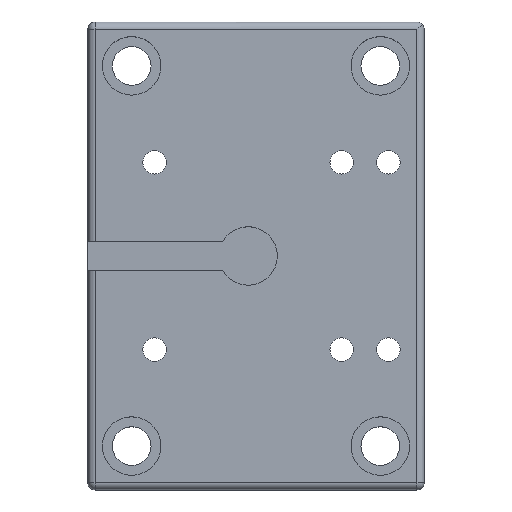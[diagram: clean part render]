
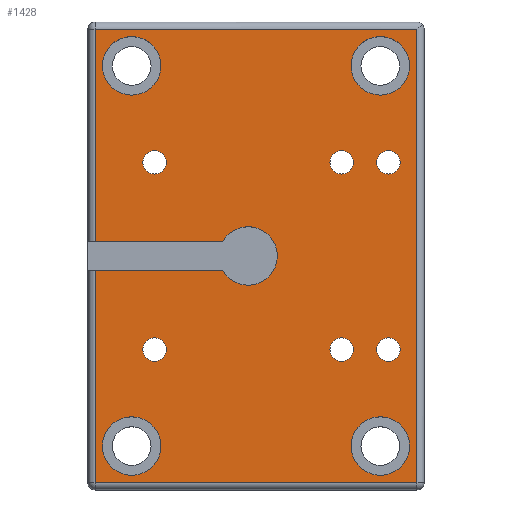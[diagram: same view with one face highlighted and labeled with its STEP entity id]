
A CAD part, top view. The second image highlights one B-rep face of the part: STEP entity #1428.
In plain terms, the highlighted planar face has unit normal (0, 0, 1).
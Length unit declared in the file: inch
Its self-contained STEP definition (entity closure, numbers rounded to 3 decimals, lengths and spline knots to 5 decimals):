
#81=CARTESIAN_POINT('',(212.04358,175.87732,-185.85167));
#82=VERTEX_POINT('',#81);
#90=CARTESIAN_POINT('',(212.04358,177.68982,-185.85167));
#91=VERTEX_POINT('',#90);
#92=CARTESIAN_POINT('',(212.04358,175.87732,-185.85167));
#93=DIRECTION('',(0.0,1.0,0.0));
#94=VECTOR('',#93,1.8125);
#95=LINE('',#92,#94);
#96=EDGE_CURVE('',#82,#91,#95,.T.);
#147=CARTESIAN_POINT('',(214.79358,177.68982,-185.85167));
#148=VERTEX_POINT('',#147);
#149=CARTESIAN_POINT('',(212.04358,177.68982,-185.85167));
#150=DIRECTION('',(1.0,0.0,0.0));
#151=VECTOR('',#150,2.75);
#152=LINE('',#149,#151);
#153=EDGE_CURVE('',#91,#148,#152,.T.);
#278=CARTESIAN_POINT('',(214.79358,173.81482,-185.85167));
#279=VERTEX_POINT('',#278);
#280=CARTESIAN_POINT('',(214.79358,177.68982,-185.85167));
#281=DIRECTION('',(0.0,-1.0,0.0));
#282=VECTOR('',#281,3.875);
#283=LINE('',#280,#282);
#284=EDGE_CURVE('',#148,#279,#283,.T.);
#319=CARTESIAN_POINT('',(212.04358,173.81482,-185.85167));
#320=VERTEX_POINT('',#319);
#321=CARTESIAN_POINT('',(214.79358,173.81482,-185.85167));
#322=DIRECTION('',(-1.0,0.0,0.0));
#323=VECTOR('',#322,2.75);
#324=LINE('',#321,#323);
#325=EDGE_CURVE('',#279,#320,#324,.T.);
#367=CARTESIAN_POINT('',(212.04358,175.62732,-185.85167));
#368=VERTEX_POINT('',#367);
#393=CARTESIAN_POINT('',(212.04358,173.81482,-185.85167));
#394=DIRECTION('',(0.0,1.0,0.0));
#395=VECTOR('',#394,1.8125);
#396=LINE('',#393,#395);
#397=EDGE_CURVE('',#320,#368,#396,.T.);
#931=CARTESIAN_POINT('',(214.15108,175.05232,-185.85167));
#932=VERTEX_POINT('',#931);
#933=CARTESIAN_POINT('',(214.15108,174.95232,-185.85167));
#934=DIRECTION('',(0.0,0.0,-1.0));
#935=DIRECTION('',(0.0,1.0,0.0));
#936=AXIS2_PLACEMENT_3D('',#933,#934,#935);
#937=CIRCLE('',#936,0.1);
#938=EDGE_CURVE('',#932,#932,#937,.T.);
#951=CARTESIAN_POINT('',(212.55108,176.65232,-185.85167));
#952=VERTEX_POINT('',#951);
#953=CARTESIAN_POINT('',(212.55108,176.55232,-185.85167));
#954=DIRECTION('',(0.0,0.0,-1.0));
#955=DIRECTION('',(0.0,1.0,0.0));
#956=AXIS2_PLACEMENT_3D('',#953,#954,#955);
#957=CIRCLE('',#956,0.1);
#958=EDGE_CURVE('',#952,#952,#957,.T.);
#971=CARTESIAN_POINT('',(214.55108,176.65232,-185.85167));
#972=VERTEX_POINT('',#971);
#973=CARTESIAN_POINT('',(214.55108,176.55232,-185.85167));
#974=DIRECTION('',(0.0,0.0,-1.0));
#975=DIRECTION('',(0.0,1.0,0.0));
#976=AXIS2_PLACEMENT_3D('',#973,#974,#975);
#977=CIRCLE('',#976,0.1);
#978=EDGE_CURVE('',#972,#972,#977,.T.);
#991=CARTESIAN_POINT('',(214.15108,176.65232,-185.85167));
#992=VERTEX_POINT('',#991);
#993=CARTESIAN_POINT('',(214.15108,176.55232,-185.85167));
#994=DIRECTION('',(0.0,0.0,-1.0));
#995=DIRECTION('',(0.0,1.0,0.0));
#996=AXIS2_PLACEMENT_3D('',#993,#994,#995);
#997=CIRCLE('',#996,0.1);
#998=EDGE_CURVE('',#992,#992,#997,.T.);
#1011=CARTESIAN_POINT('',(214.55108,175.05232,-185.85167));
#1012=VERTEX_POINT('',#1011);
#1013=CARTESIAN_POINT('',(214.55108,174.95232,-185.85167));
#1014=DIRECTION('',(0.0,0.0,-1.0));
#1015=DIRECTION('',(0.0,1.0,0.0));
#1016=AXIS2_PLACEMENT_3D('',#1013,#1014,#1015);
#1017=CIRCLE('',#1016,0.1);
#1018=EDGE_CURVE('',#1012,#1012,#1017,.T.);
#1031=CARTESIAN_POINT('',(212.55108,175.05232,-185.85167));
#1032=VERTEX_POINT('',#1031);
#1033=CARTESIAN_POINT('',(212.55108,174.95232,-185.85167));
#1034=DIRECTION('',(0.0,0.0,-1.0));
#1035=DIRECTION('',(0.0,1.0,0.0));
#1036=AXIS2_PLACEMENT_3D('',#1033,#1034,#1035);
#1037=CIRCLE('',#1036,0.1);
#1038=EDGE_CURVE('',#1032,#1032,#1037,.T.);
#1059=CARTESIAN_POINT('',(212.35608,174.37732,-185.85167));
#1060=VERTEX_POINT('',#1059);
#1061=CARTESIAN_POINT('',(212.35608,174.12732,-185.85167));
#1062=DIRECTION('',(0.0,0.0,-1.0));
#1063=DIRECTION('',(0.0,1.0,0.0));
#1064=AXIS2_PLACEMENT_3D('',#1061,#1062,#1063);
#1065=CIRCLE('',#1064,0.25);
#1066=EDGE_CURVE('',#1060,#1060,#1065,.T.);
#1107=CARTESIAN_POINT('',(212.35608,177.62732,-185.85167));
#1108=VERTEX_POINT('',#1107);
#1109=CARTESIAN_POINT('',(212.35608,177.37732,-185.85167));
#1110=DIRECTION('',(0.0,0.0,-1.0));
#1111=DIRECTION('',(0.0,1.0,0.0));
#1112=AXIS2_PLACEMENT_3D('',#1109,#1110,#1111);
#1113=CIRCLE('',#1112,0.25);
#1114=EDGE_CURVE('',#1108,#1108,#1113,.T.);
#1155=CARTESIAN_POINT('',(214.48108,177.62732,-185.85167));
#1156=VERTEX_POINT('',#1155);
#1157=CARTESIAN_POINT('',(214.48108,177.37732,-185.85167));
#1158=DIRECTION('',(0.0,0.0,-1.0));
#1159=DIRECTION('',(0.0,1.0,0.0));
#1160=AXIS2_PLACEMENT_3D('',#1157,#1158,#1159);
#1161=CIRCLE('',#1160,0.25);
#1162=EDGE_CURVE('',#1156,#1156,#1161,.T.);
#1203=CARTESIAN_POINT('',(214.48108,174.37732,-185.85167));
#1204=VERTEX_POINT('',#1203);
#1205=CARTESIAN_POINT('',(214.48108,174.12732,-185.85167));
#1206=DIRECTION('',(0.0,0.0,-1.0));
#1207=DIRECTION('',(0.0,1.0,0.0));
#1208=AXIS2_PLACEMENT_3D('',#1205,#1206,#1207);
#1209=CIRCLE('',#1208,0.25);
#1210=EDGE_CURVE('',#1204,#1204,#1209,.T.);
#1289=CARTESIAN_POINT('',(213.13458,175.62732,-185.85167));
#1290=VERTEX_POINT('',#1289);
#1291=CARTESIAN_POINT('',(213.13458,175.62732,-185.85167));
#1292=DIRECTION('',(-1.0,0.0,0.0));
#1293=VECTOR('',#1292,1.09099);
#1294=LINE('',#1291,#1293);
#1295=EDGE_CURVE('',#1290,#368,#1294,.T.);
#1330=CARTESIAN_POINT('',(213.13458,175.87732,-185.85167));
#1331=VERTEX_POINT('',#1330);
#1338=CARTESIAN_POINT('',(212.04358,175.87732,-185.85167));
#1339=DIRECTION('',(1.0,0.0,0.0));
#1340=VECTOR('',#1339,1.09099);
#1341=LINE('',#1338,#1340);
#1342=EDGE_CURVE('',#82,#1331,#1341,.T.);
#1371=CARTESIAN_POINT('',(213.35108,175.75232,-185.85167));
#1372=DIRECTION('',(0.0,0.0,-1.0));
#1373=DIRECTION('',(0.0,1.0,0.0));
#1374=AXIS2_PLACEMENT_3D('',#1371,#1372,#1373);
#1375=CIRCLE('',#1374,0.25);
#1376=EDGE_CURVE('',#1331,#1290,#1375,.T.);
#1383=CARTESIAN_POINT('',(213.41858,175.75232,-185.85167));
#1384=DIRECTION('',(0.0,0.0,1.0));
#1385=DIRECTION('',(0.0,1.0,0.0));
#1386=AXIS2_PLACEMENT_3D('',#1383,#1384,#1385);
#1387=PLANE('',#1386);
#1388=ORIENTED_EDGE('',*,*,#96,.F.);
#1389=ORIENTED_EDGE('',*,*,#1342,.T.);
#1390=ORIENTED_EDGE('',*,*,#1376,.T.);
#1391=ORIENTED_EDGE('',*,*,#1295,.T.);
#1392=ORIENTED_EDGE('',*,*,#397,.F.);
#1393=ORIENTED_EDGE('',*,*,#325,.F.);
#1394=ORIENTED_EDGE('',*,*,#284,.F.);
#1395=ORIENTED_EDGE('',*,*,#153,.F.);
#1396=EDGE_LOOP('',(#1388,#1389,#1390,#1391,#1392,#1393,#1394,#1395));
#1397=FACE_OUTER_BOUND('',#1396,.T.);
#1398=ORIENTED_EDGE('',*,*,#938,.T.);
#1399=EDGE_LOOP('',(#1398));
#1400=FACE_BOUND('',#1399,.T.);
#1401=ORIENTED_EDGE('',*,*,#958,.T.);
#1402=EDGE_LOOP('',(#1401));
#1403=FACE_BOUND('',#1402,.T.);
#1404=ORIENTED_EDGE('',*,*,#978,.T.);
#1405=EDGE_LOOP('',(#1404));
#1406=FACE_BOUND('',#1405,.T.);
#1407=ORIENTED_EDGE('',*,*,#998,.T.);
#1408=EDGE_LOOP('',(#1407));
#1409=FACE_BOUND('',#1408,.T.);
#1410=ORIENTED_EDGE('',*,*,#1018,.T.);
#1411=EDGE_LOOP('',(#1410));
#1412=FACE_BOUND('',#1411,.T.);
#1413=ORIENTED_EDGE('',*,*,#1038,.T.);
#1414=EDGE_LOOP('',(#1413));
#1415=FACE_BOUND('',#1414,.T.);
#1416=ORIENTED_EDGE('',*,*,#1066,.T.);
#1417=EDGE_LOOP('',(#1416));
#1418=FACE_BOUND('',#1417,.T.);
#1419=ORIENTED_EDGE('',*,*,#1114,.T.);
#1420=EDGE_LOOP('',(#1419));
#1421=FACE_BOUND('',#1420,.T.);
#1422=ORIENTED_EDGE('',*,*,#1162,.T.);
#1423=EDGE_LOOP('',(#1422));
#1424=FACE_BOUND('',#1423,.T.);
#1425=ORIENTED_EDGE('',*,*,#1210,.T.);
#1426=EDGE_LOOP('',(#1425));
#1427=FACE_BOUND('',#1426,.T.);
#1428=ADVANCED_FACE('',(#1397,#1400,#1403,#1406,#1409,#1412,#1415,#1418,#1421,#1424,#1427),#1387,.T.);
